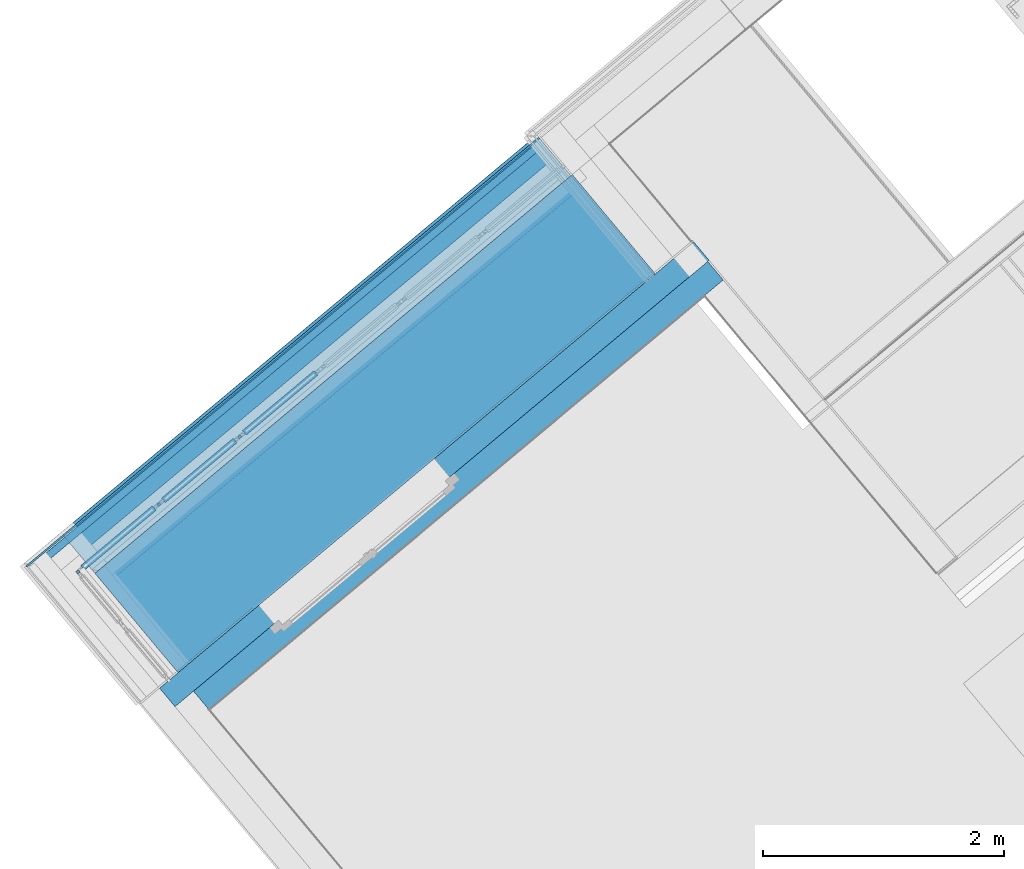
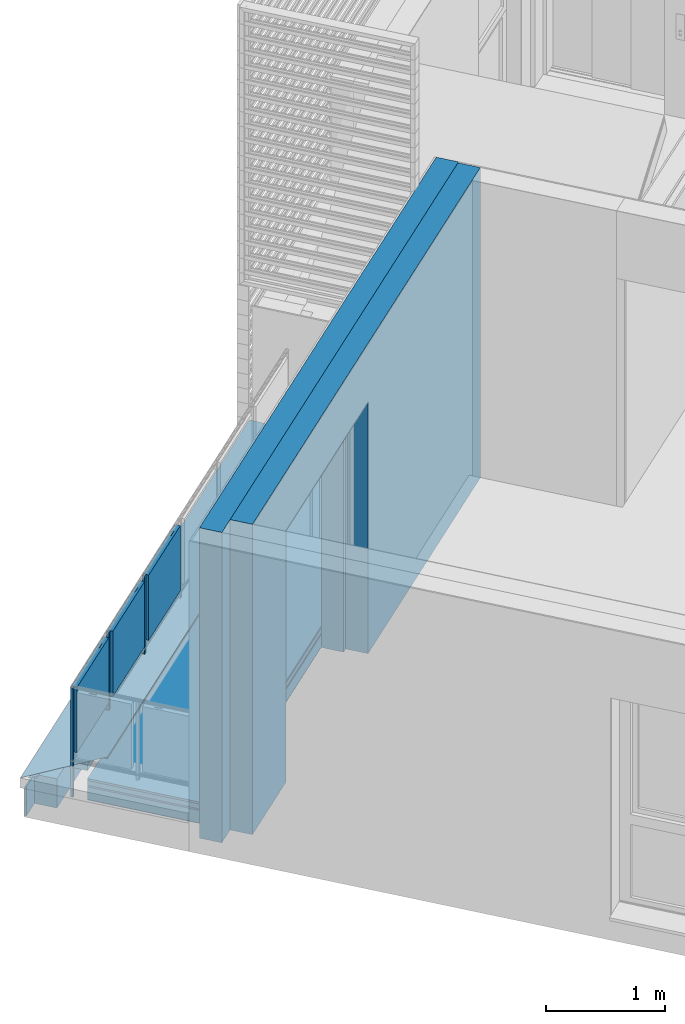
# One storey, part 18 of 47: 18 building element parts, 1 opening, 4 elements without a shape of their own.
"""IFC4 building model written with IfcOpenShell, lengths in metres."""

from ifc_helpers import new_model, entity, si_unit, converted_unit, derived_unit, direction, frame, origin_with_axes, place, context, subcontext, project, spatial, polygons, material, type_object, element, aggregate, save


model = new_model("IFC4")

# Units and contexts
model_context = context("Model", 3, precision=1e-05, world=origin_with_axes(), true_north=direction((0.0, 1.0)))
body_context = subcontext(model_context, "Body", "Model", "MODEL_VIEW")
ifc_project = project(units=[si_unit("LENGTHUNIT", "METRE"), si_unit("AREAUNIT", "SQUARE_METRE"), si_unit("VOLUMEUNIT", "CUBIC_METRE"), converted_unit("PLANEANGLEUNIT", "DEGREE", entity("IfcPlaneAngleMeasure", 0.0174532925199), si_unit("PLANEANGLEUNIT", "RADIAN"), dimensions=[0, 0, 0, 0, 0, 0, 0]), converted_unit("TIMEUNIT", "Year", entity("IfcTimeMeasure", 31556926.0), si_unit("TIMEUNIT", "SECOND"), dimensions=[0, 0, 1, 0, 0, 0, 0]), si_unit("MASSUNIT", "GRAM", prefix="KILO"), si_unit("THERMODYNAMICTEMPERATUREUNIT", "DEGREE_CELSIUS"), si_unit("LUMINOUSINTENSITYUNIT", "LUMEN"), si_unit("ENERGYUNIT", "JOULE", prefix="MEGA"), derived_unit("THERMALCONDUCTANCEUNIT", [(si_unit("POWERUNIT", "WATT"), 1), (si_unit("LENGTHUNIT", "METRE"), -1), (si_unit("THERMODYNAMICTEMPERATUREUNIT", "KELVIN"), -1)]), derived_unit("SPECIFICHEATCAPACITYUNIT", [(si_unit("ENERGYUNIT", "JOULE"), 1), (si_unit("MASSUNIT", "GRAM", prefix="KILO"), -1), (si_unit("THERMODYNAMICTEMPERATUREUNIT", "KELVIN"), -1)]), derived_unit("MASSDENSITYUNIT", [(si_unit("MASSUNIT", "GRAM", prefix="KILO"), 1), (si_unit("VOLUMEUNIT", "CUBIC_METRE"), -1)])], contexts=[model_context])

# Site, building, storey
site_placement = place(None, frame((-0.00153261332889, -0.00661245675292, 0.0), z_axis=(0.0, 0.0, 1.0), x_axis=(1.0, 0.0, 0.0)))
site = spatial("IfcSite", under=ifc_project, at=site_placement, Name="Site", CompositionType="ELEMENT")
building_placement = place(site_placement, origin_with_axes())
building = spatial("IfcBuilding", under=site, at=building_placement, Name="Building", CompositionType="ELEMENT")
storey_placement = place(building_placement, frame((0.0, 0.0, 8.66), z_axis=(0.0, 0.0, 1.0), x_axis=(1.0, 0.0, 0.0)))
storey = spatial("IfcBuildingStorey", under=building, at=storey_placement, Name="DG2", CompositionType="ELEMENT", Elevation=8.66)

# Wall, opening, building element parts
wall_type_1 = type_object("IfcWallType", Name="AW EG 420", PredefinedType="NOTDEFINED")
wall_1_placement = place(storey_placement, frame((-7.73758680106, 17.8868192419, 0.0), z_axis=(0.0, 0.0, 1.0), x_axis=(0.767365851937, 0.641209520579, 0.0)))
wall_1 = element("IfcWall", 1, at=wall_1_placement, inside=storey, type_object=wall_type_1, Name="Wand-002", PredefinedType="NOTDEFINED")
opening_placement = place(wall_1_placement, frame((2.23567660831, 0.0, 0.22), z_axis=(0.0, 0.0, 1.0), x_axis=(1.0, 0.0, 0.0)))
element("IfcOpeningElement", 2, at=opening_placement, cuts=wall_1, Name="Tür-002", context=body_context, identifier="Reference", shape_type="Tessellation", body=[
    polygons([(-0.95, -0.215, 2.31), (0.95, -0.215, 2.31), (0.95, 2.84018525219, 2.31), (-0.95, 2.84018525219, 2.31), (0.95, -0.215, -0.22), (-0.95, -0.215, -0.22), (-1.0, -0.215, -0.22), (-1.0, -0.215, 2.36), (1.0, -0.215, 2.36), (1.0, -0.215, -0.22), (0.95, 2.84018525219, -0.22), (-0.95, 2.84018525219, -0.22), (1.0, -3.26018525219, -0.22), (-1.0, -3.26018525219, -0.22), (-1.0, -3.26018525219, 2.36), (1.0, -3.26018525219, 2.36)], [[[1, 2, 3, 4]], [[5, 2, 1, 6, 7, 8, 9, 10]], [[2, 5, 11, 3]], [[3, 11, 12, 4]], [[6, 1, 4, 12]], [[6, 12, 11, 5, 10, 13, 14, 7]], [[8, 7, 14, 15]], [[9, 8, 15, 16]], [[10, 9, 16, 13]], [[15, 14, 13, 16]]], closed=True),
])
ifc_material_1 = material(Name="EPS 1")
building_element_part_1_placement = place(wall_1_placement, origin_with_axes())
building_element_part_1 = element("IfcBuildingElementPart", 3, at=building_element_part_1_placement, material=ifc_material_1, Name="EPS 1", PredefinedType="NOTDEFINED", context=body_context, shape_type="Tessellation", body=[
    polygons([(1.28567660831, -0.215, 0.0), (1.28567660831, -0.215, 2.53), (3.18567660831, -0.215, 2.53), (3.18567660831, -0.215, 0.0), (5.77520574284, -0.215, 0.0), (5.77520574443, -0.215, 1.66399832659), (5.97520574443, -0.215, 1.66399832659), (5.97520574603, -0.215, 0.0), (5.99020575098, -0.215, 0.0), (5.99020575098, -0.215, 3.18), (0.214999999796, -0.215, 3.18), (0.214999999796, -0.215, 0.0), (1.28567660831, -0.015, 0.0), (1.28567660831, -0.015, 2.53), (3.18567660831, -0.015, 2.53), (3.18567660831, -0.015, 0.0), (5.77520574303, -0.015, 0.0), (5.77520574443, -0.015, 1.66399832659), (5.97520574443, -0.015, 1.66399832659), (5.97520574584, -0.015, 0.0), (5.990205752, -0.015, 0.0), (5.990205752, -0.015, 3.18), (0.214999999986, -0.015, 3.18), (0.214999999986, -0.015, 0.0)], [[[1, 2, 3, 4, 5, 6, 7, 8, 9, 10, 11, 12]], [[2, 1, 13, 14]], [[3, 2, 14, 15]], [[4, 3, 15, 16]], [[4, 16, 17, 5]], [[6, 5, 17, 18]], [[7, 6, 18, 19]], [[8, 7, 19, 20]], [[8, 20, 21, 9]], [[22, 10, 9, 21]], [[10, 22, 23, 11]], [[12, 11, 23, 24]], [[13, 1, 12, 24]], [[14, 13, 24, 23, 22, 21, 20, 19, 18, 17, 16, 15]]], closed=True),
])
ifc_material_2 = material(Name="Stahlbeton Wand")
building_element_part_2_placement = place(wall_1_placement, origin_with_axes())
building_element_part_2 = element("IfcBuildingElementPart", 4, at=building_element_part_2_placement, material=ifc_material_2, Name="Stahlbeton Wand", PredefinedType="NOTDEFINED", context=body_context, shape_type="Tessellation", body=[
    polygons([(1.23567660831, -0.415, 0.0), (1.23567660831, -0.415, 2.58), (3.23567660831, -0.415, 2.58), (3.23567660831, -0.415, 0.0), (5.97520574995, -0.415, 0.0), (5.97520574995, -0.415, 3.18), (0.414999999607, -0.415, 3.18), (0.414999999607, -0.415, 0.0), (1.23567660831, -0.215, 0.0), (1.23567660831, -0.215, 2.58), (3.23567660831, -0.215, 2.58), (3.23567660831, -0.215, 0.0), (5.97520575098, -0.215, 0.0), (5.97520575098, -0.215, 3.18), (0.414999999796, -0.215, 3.18), (0.414999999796, -0.215, 0.0)], [[[1, 2, 3, 4, 5, 6, 7, 8]], [[2, 1, 9, 10]], [[3, 2, 10, 11]], [[4, 3, 11, 12]], [[4, 12, 13, 5]], [[6, 5, 13, 14]], [[14, 15, 7, 6]], [[7, 15, 16, 8]], [[9, 1, 8, 16]], [[10, 9, 16, 15, 14, 13, 12, 11]]], closed=True),
])
aggregate(wall_1, [building_element_part_1, building_element_part_2])

# Wall, building element parts
wall_type_2 = type_object("IfcWallType", Name="Bauteil - Attika Terrasse 1.DG 574 x 410", PredefinedType="NOTDEFINED")
wall_2_placement = place(storey_placement, frame((-8.38023068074, 18.991205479, -0.2), z_axis=(0.0, 0.0, 1.0), x_axis=(0.767365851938, 0.641209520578, 0.0)))
wall_2 = element("IfcWall", 5, at=wall_2_placement, inside=storey, type_object=wall_type_2, Name="Wand-005", PredefinedType="NOTDEFINED")
ifc_material_3 = material(Name="Zementputz")
building_element_part_3_placement = place(wall_2_placement, origin_with_axes())
building_element_part_3 = element("IfcBuildingElementPart", 6, at=building_element_part_3_placement, material=ifc_material_3, Name="Zementputz", PredefinedType="NOTDEFINED", context=body_context, shape_type="Tessellation", body=[
    polygons([(-0.199999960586, 0.214999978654, 0.499999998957), (-0.199999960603, 0.199999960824, 0.499999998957), (5.34520574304, 0.199999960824, 0.499999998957), (5.34520574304, 0.214999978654, 0.499999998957), (-0.199999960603, 0.199999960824, 0.498822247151), (-0.199999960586, 0.214999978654, 0.498822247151), (-0.199999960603, 0.199999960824, 0.49100648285), (-0.199999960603, 0.199999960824, 0.488695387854), (-0.199999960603, 0.199999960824, 0.335), (-0.199999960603, 0.199999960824, 0.2), (5.34520574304, 0.199999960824, 0.2), (5.34520574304, 0.214999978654, 0.2), (-0.199999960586, 0.214999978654, 0.2), (-0.199999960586, 0.214999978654, 0.335), (-0.199999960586, 0.214999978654, 0.488695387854), (-0.199999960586, 0.214999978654, 0.49100648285)], [[[1, 2, 3, 4]], [[5, 2, 1, 6]], [[2, 5, 7, 8, 9, 10, 11, 3]], [[12, 4, 3, 11]], [[6, 1, 4, 12, 13, 14, 15, 16]], [[5, 6, 16, 7]], [[7, 16, 15, 8]], [[8, 15, 14, 9]], [[9, 14, 13, 10]], [[10, 13, 12, 11]]], closed=True),
])
ifc_material_4 = material(Name="Vollholz")
building_element_part_4_placement = place(wall_2_placement, origin_with_axes())
building_element_part_4 = element("IfcBuildingElementPart", 7, at=building_element_part_4_placement, material=ifc_material_4, Name="Vollholz", PredefinedType="NOTDEFINED", context=body_context, shape_type="Tessellation", body=[
    polygons([(-0.189984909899, 0.189984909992, 0.586106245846), (-0.130124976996, 0.130124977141, 0.584015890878), (5.34520574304, 0.130124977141, 0.584015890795), (5.34520574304, 0.189984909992, 0.586106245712), (-0.13012497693, 0.189996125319, 0.584015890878), (-0.130124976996, 0.130124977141, 0.560000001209), (5.34520574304, 0.130124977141, 0.560000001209), (-0.130124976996, 0.130124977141, 0.575979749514), (-0.130124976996, 0.130124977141, 0.573880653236), (-0.130124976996, 0.130124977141, 0.567947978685), (5.34520574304, 0.190124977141, 0.560000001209), (-0.13012497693, 0.190124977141, 0.560000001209), (-0.13012497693, 0.190082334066, 0.567947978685), (-0.13012497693, 0.190050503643, 0.573880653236), (-0.13012497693, 0.190039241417, 0.575979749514)], [[[1, 2, 3, 4]], [[5, 2, 1]], [[6, 7, 3, 2, 8, 9, 10]], [[3, 7, 11, 4]], [[5, 1, 4, 11, 12, 13, 14, 15]], [[2, 5, 15, 8]], [[6, 12, 11, 7]], [[15, 14, 9, 8]], [[13, 10, 9, 14]], [[6, 10, 13, 12]]], closed=True),
])
building_element_part_5_placement = place(wall_2_placement, origin_with_axes())
building_element_part_5 = element("IfcBuildingElementPart", 8, at=building_element_part_5_placement, material=ifc_material_1, Name="EPS 1", PredefinedType="NOTDEFINED", context=body_context, shape_type="Tessellation", body=[
    polygons([(0.0, 0.19999996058, 0.499999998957), (-2.39910313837e-10, 2.39911202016e-10, 0.499999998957), (5.34520574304, 2.39911202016e-10, 0.499999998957), (5.34520574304, 0.19999996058, 0.499999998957), (-2.39910313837e-10, 2.39911202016e-10, 0.498822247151), (0.0, 0.19999996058, 0.498822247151), (-2.39910313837e-10, 2.39911202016e-10, 0.49100648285), (-2.39910313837e-10, 2.39911202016e-10, 0.488695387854), (-2.39910313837e-10, 2.39911202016e-10, 0.335), (-2.39910313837e-10, 2.39911202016e-10, 0.2), (5.34520574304, 2.39911202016e-10, 0.2), (5.34520574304, 0.19999996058, 0.2), (0.0, 0.19999996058, 0.2), (0.0, 0.19999996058, 0.335), (0.0, 0.19999996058, 0.488695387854), (0.0, 0.19999996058, 0.49100648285)], [[[1, 2, 3, 4]], [[5, 2, 1, 6]], [[2, 5, 7, 8, 9, 10, 11, 3]], [[11, 12, 4, 3]], [[6, 1, 4, 12, 13, 14, 15, 16]], [[5, 6, 16, 7]], [[7, 16, 15, 8]], [[8, 15, 14, 9]], [[9, 14, 13, 10]], [[10, 13, 12, 11]]], closed=True),
])
ifc_material_5 = material(Name="Brettschichtholz")
building_element_part_6_placement = place(wall_2_placement, origin_with_axes())
building_element_part_6 = element("IfcBuildingElementPart", 9, at=building_element_part_6_placement, material=ifc_material_5, Name="Brettschichtholz", PredefinedType="NOTDEFINED", context=body_context, shape_type="Tessellation", body=[
    polygons([(0.200000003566, -0.159999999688, 0.559999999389), (0.200000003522, -0.200000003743, 0.559999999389), (5.34520574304, -0.200000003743, 0.559999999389), (5.34520574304, -0.159999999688, 0.559999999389), (0.200000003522, -0.200000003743, 0.519224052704), (0.200000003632, -0.100000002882, 0.559999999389), (0.200000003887, 0.130124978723, 0.559999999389), (0.200000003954, 0.190124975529, 0.559999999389), (0.200000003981, 0.214999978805, 0.559999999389), (0.200000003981, 0.214999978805, 0.519224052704), (0.200000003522, -0.200000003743, 0.511361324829), (0.200000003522, -0.200000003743, 0.50905023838), (0.200000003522, -0.200000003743, 0.500000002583), (5.34520574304, -0.200000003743, 0.500000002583), (5.34520574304, 0.214999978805, 0.499999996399), (5.34520574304, 0.214999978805, 0.559999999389), (5.34520574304, 0.190124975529, 0.559999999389), (5.34520574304, 0.130124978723, 0.559999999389), (5.34520574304, -0.100000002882, 0.559999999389), (0.200000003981, 0.214999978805, 0.500000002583), (0.200000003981, 0.214999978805, 0.50905023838), (0.200000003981, 0.214999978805, 0.511361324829)], [[[1, 2, 3, 4]], [[5, 2, 1, 6, 7, 8, 9, 10]], [[2, 5, 11, 12, 13, 14, 3]], [[14, 15, 16, 17, 18, 19, 4, 3]], [[6, 1, 4, 19]], [[7, 6, 19, 18]], [[8, 7, 18, 17]], [[9, 8, 17, 16]], [[10, 9, 16, 15, 20, 21, 22]], [[5, 10, 22, 11]], [[11, 22, 21, 12]], [[12, 21, 20, 13]], [[13, 20, 15, 14]]], closed=True),
])
ifc_material_6 = material(Name="Holzwerkstoff")
building_element_part_7_placement = place(wall_2_placement, origin_with_axes())
building_element_part_7 = element("IfcBuildingElementPart", 10, at=building_element_part_7_placement, material=ifc_material_6, Name="Holzwerkstoff", PredefinedType="NOTDEFINED", context=body_context, shape_type="Tessellation", body=[
    polygons([(-0.239276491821, 0.239276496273, 0.608570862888), (0.330698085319, -0.330698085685, 0.587938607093), (5.34520574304, -0.330698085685, 0.587938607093), (5.34520574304, 0.239276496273, 0.608570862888), (0.330698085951, 0.2399969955, 0.587938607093), (0.330561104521, -0.330561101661, 0.584015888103), (0.330280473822, -0.330280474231, 0.57597974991), (0.330207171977, -0.330207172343, 0.573880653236), (0.329999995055, -0.329999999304, 0.567947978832), (5.34520574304, -0.329999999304, 0.567947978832), (0.330634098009, -0.330634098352, 0.586106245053), (5.34520574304, -0.100000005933, 0.575979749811), (5.34520574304, 0.130124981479, 0.584015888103), (5.34520574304, 0.189984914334, 0.586106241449), (5.34520574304, 0.239999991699, 0.587852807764), (5.34520574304, -0.160110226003, 0.573880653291), (0.330695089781, 0.239999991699, 0.587852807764), (0.33063409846, 0.189984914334, 0.586106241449), (0.330280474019, -0.100000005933, 0.575979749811), (0.330561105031, 0.130124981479, 0.584015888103), (0.330207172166, -0.160110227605, 0.573880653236)], [[[1, 2, 3, 4]], [[1, 5, 2]], [[6, 7, 8, 9, 10, 3, 2, 11]], [[12, 13, 14, 15, 4, 3, 10, 16]], [[17, 5, 1, 4, 15]], [[18, 11, 2, 5, 17]], [[19, 7, 6, 20]], [[21, 8, 7, 19]], [[21, 9, 8]], [[9, 21, 16, 10]], [[20, 6, 11, 18]], [[19, 20, 13, 12]], [[20, 18, 14, 13]], [[18, 17, 15, 14]], [[21, 19, 12, 16]]], closed=True),
])
aggregate(wall_2, [building_element_part_3, building_element_part_4, building_element_part_5, building_element_part_6, building_element_part_7])

# Covering, building element parts
covering_type = type_object("IfcCoveringType", Name="Balkon vor Terrasse 220", PredefinedType="NOTDEFINED")
covering_placement = place(storey_placement, frame((-7.40951182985, 18.1414107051, 0.0), z_axis=(0.0, 0.0, 1.0), x_axis=(1.0, 0.0, 0.0)))
covering = element("IfcCovering", 11, at=covering_placement, inside=storey, type_object=covering_type, Name="Decke-005", PredefinedType="NOTDEFINED")
ifc_material_7 = material(Name="Platten")
building_element_part_8_placement = place(covering_placement, origin_with_axes())
building_element_part_8 = element("IfcBuildingElementPart", 12, at=building_element_part_8_placement, material=ifc_material_7, Name="Platten", PredefinedType="NOTDEFINED", context=body_context, shape_type="Tessellation", body=[
    polygons([(3.93863704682, 3.31066539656, 0.2), (3.93863704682, 3.31066539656, 0.22), (2.15487276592, 1.82015518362, 0.22), (2.15487276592, 1.82015518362, 0.2), (3.25925131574, 4.12371853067, 0.22), (3.25925131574, 4.12371853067, 0.2), (-0.689003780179, 0.82456351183, 0.22), (-0.0096181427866, 0.0115104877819, 0.22), (0.620141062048, 0.537736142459, 0.22), (0.629759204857, 0.52622565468, 0.22), (2.16449090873, 1.80864469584, 0.22), (2.16449090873, 1.80864469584, 0.2), (0.629759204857, 0.52622565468, 0.2), (0.620141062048, 0.537736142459, 0.2), (-0.0096181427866, 0.0115104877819, 0.2), (-0.689003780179, 0.82456351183, 0.2)], [[[1, 2, 3, 4]], [[5, 2, 1, 6]], [[2, 5, 7, 8, 9, 10, 11, 3]], [[3, 11, 12, 4]], [[6, 1, 4, 12, 13, 14, 15, 16]], [[5, 6, 16, 7]], [[15, 8, 7, 16]], [[9, 8, 15, 14]], [[13, 10, 9, 14]], [[12, 11, 10, 13]]], closed=True),
])
ifc_material_8 = material(Name="Luftschicht horizontal")
building_element_part_9_placement = place(covering_placement, origin_with_axes())
building_element_part_9 = element("IfcBuildingElementPart", 13, at=building_element_part_9_placement, material=ifc_material_8, Name="Luftschicht horizontal", PredefinedType="NOTDEFINED", context=body_context, shape_type="Tessellation", body=[
    polygons([(3.93863704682, 3.31066539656, 0.15), (3.93863704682, 3.31066539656, 0.2), (2.15487276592, 1.82015518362, 0.2), (2.15487276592, 1.82015518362, 0.15), (3.25925131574, 4.12371853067, 0.2), (3.25925131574, 4.12371853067, 0.15), (-0.689003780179, 0.82456351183, 0.2), (-0.0096181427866, 0.0115104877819, 0.2), (0.620141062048, 0.537736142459, 0.2), (0.629759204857, 0.52622565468, 0.2), (2.16449090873, 1.80864469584, 0.2), (2.16449090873, 1.80864469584, 0.15), (0.629759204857, 0.52622565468, 0.15), (0.620141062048, 0.537736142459, 0.15), (-0.0096181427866, 0.0115104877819, 0.15), (-0.689003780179, 0.82456351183, 0.15)], [[[1, 2, 3, 4]], [[5, 2, 1, 6]], [[2, 5, 7, 8, 9, 10, 11, 3]], [[3, 11, 12, 4]], [[6, 1, 4, 12, 13, 14, 15, 16]], [[5, 6, 16, 7]], [[15, 8, 7, 16]], [[9, 8, 15, 14]], [[13, 10, 9, 14]], [[12, 11, 10, 13]]], closed=True),
])
ifc_material_9 = material(Name="Sperrschicht")
building_element_part_10_placement = place(covering_placement, origin_with_axes())
building_element_part_10 = element("IfcBuildingElementPart", 14, at=building_element_part_10_placement, material=ifc_material_9, Name="Sperrschicht", PredefinedType="NOTDEFINED", context=body_context, shape_type="Tessellation", body=[
    polygons([(3.95976566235, 3.30877303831, 0.135), (3.95976566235, 3.30877303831, 0.15), (0.0, 0.0, 0.15), (0.0, 0.0, 0.135), (3.27076180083, 4.13333667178, 0.135), (3.27076180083, 4.13333667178, 0.15), (-0.689003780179, 0.82456351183, 0.15), (-0.689003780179, 0.82456351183, 0.135)], [[[1, 2, 3, 4]], [[5, 6, 2, 1]], [[3, 2, 6, 7]], [[4, 3, 7, 8]], [[4, 8, 5, 1]], [[8, 7, 6, 5]]], closed=True),
])
ifc_material_10 = material(Name="XPS")
building_element_part_11_placement = place(covering_placement, origin_with_axes())
building_element_part_11 = element("IfcBuildingElementPart", 15, at=building_element_part_11_placement, material=ifc_material_10, Name="XPS", PredefinedType="NOTDEFINED", context=body_context, shape_type="Tessellation", body=[
    polygons([(3.95976566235, 3.30877303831, 0.005), (3.95976566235, 3.30877303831, 0.135), (0.0, 0.0, 0.135), (0.0, 0.0, 0.005), (3.27076180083, 4.13333667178, 0.005), (3.27076180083, 4.13333667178, 0.135), (-0.689003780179, 0.82456351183, 0.135), (-0.689003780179, 0.82456351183, 0.005)], [[[1, 2, 3, 4]], [[5, 6, 2, 1]], [[3, 2, 6, 7]], [[4, 3, 7, 8]], [[4, 8, 5, 1]], [[8, 7, 6, 5]]], closed=True),
])
building_element_part_12_placement = place(covering_placement, origin_with_axes())
building_element_part_12 = element("IfcBuildingElementPart", 16, at=building_element_part_12_placement, material=ifc_material_9, Name="Sperrschicht", PredefinedType="NOTDEFINED", context=body_context, shape_type="Tessellation", body=[
    polygons([(0.0, 0.0, 0.0), (3.95976566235, 3.30877303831, 0.0), (3.95976566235, 3.30877303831, 0.005), (0.0, 0.0, 0.005), (-0.689003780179, 0.82456351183, 0.0), (3.27076180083, 4.13333667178, 0.0), (3.27076180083, 4.13333667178, 0.005), (-0.689003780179, 0.82456351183, 0.005)], [[[1, 2, 3, 4]], [[1, 5, 6, 2]], [[2, 6, 7, 3]], [[4, 3, 7, 8]], [[5, 1, 4, 8]], [[6, 5, 8, 7]]], closed=True),
])
aggregate(covering, [building_element_part_8, building_element_part_9, building_element_part_10, building_element_part_11, building_element_part_12])

# Railing, building element parts
railing_type = type_object("IfcRailingType", Name="Geländerart", PredefinedType="NOTDEFINED")
railing_placement = place(storey_placement, frame((-7.40951182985, 18.1414107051, 0.38), z_axis=(0.0, 0.0, 1.0), x_axis=(1.0, 0.0, 0.0)))
railing = element("IfcRailing", 17, at=railing_placement, inside=storey, type_object=railing_type, Name="Geländer - 001", PredefinedType="NOTDEFINED")
ifc_material_11 = material(Name="Aluminium")
building_element_part_13_placement = place(railing_placement, origin_with_axes())
building_element_part_13 = element("IfcBuildingElementPart", 18, at=building_element_part_13_placement, material=ifc_material_11, Name="Aluminium", PredefinedType="NOTDEFINED", context=body_context, shape_type="Tessellation", body=[
    polygons([(-0.828284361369, 0.854786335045, -0.3), (-0.847468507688, 0.838756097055, -0.3), (-0.847468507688, 0.838756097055, 0.82), (-0.828284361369, 0.854786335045, 0.82), (-0.812254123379, 0.835602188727, -0.3), (-0.831438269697, 0.819571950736, -0.3), (-0.831438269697, 0.819571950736, 0.82), (-0.812254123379, 0.835602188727, 0.82)], [[[1, 2, 3, 4]], [[1, 5, 6, 2]], [[2, 6, 7, 3]], [[4, 3, 7, 8]], [[5, 1, 4, 8]], [[6, 5, 8, 7]]], closed=True),
])
building_element_part_14_placement = place(railing_placement, origin_with_axes())
building_element_part_14 = element("IfcBuildingElementPart", 19, at=building_element_part_14_placement, material=ifc_material_11, Name="Aluminium", PredefinedType="NOTDEFINED", context=body_context, shape_type="Tessellation", body=[
    polygons([(-0.7163594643, 0.935278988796, 0.12), (-0.662643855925, 0.980163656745, 0.12), (-0.662643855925, 0.980163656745, 0.095), (-0.7163594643, 0.935278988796, 0.095), (-0.713153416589, 0.931442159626, 0.12), (-0.659437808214, 0.976326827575, 0.12), (-0.659437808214, 0.976326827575, 0.095), (-0.713153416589, 0.931442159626, 0.095)], [[[1, 2, 3, 4]], [[5, 6, 2, 1]], [[2, 6, 7, 3]], [[4, 3, 7, 8]], [[1, 4, 8, 5]], [[8, 7, 6, 5]]], closed=True),
    polygons([(-0.275737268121, 1.3034621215, 0.79), (-0.329452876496, 1.25857745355, 0.79), (-0.329452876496, 1.25857745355, 0.795), (-0.275737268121, 1.3034621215, 0.795), (-0.272531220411, 1.29962529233, 0.79), (-0.326246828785, 1.25474062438, 0.79), (-0.326246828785, 1.25474062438, 0.795), (-0.272531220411, 1.29962529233, 0.795)], [[[1, 2, 3, 4]], [[5, 6, 2, 1]], [[2, 6, 7, 3]], [[4, 3, 7, 8]], [[1, 4, 8, 5]], [[8, 7, 6, 5]]], closed=True),
    polygons([(-0.775462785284, 0.850055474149, 0.12), (-0.80752326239, 0.888423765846, 0.12), (-0.213427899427, 1.38484880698, 0.12), (-0.18136742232, 1.34648051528, 0.12), (-0.760115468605, 0.862879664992, 0.14), (-0.769733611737, 0.874390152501, 0.14), (-0.773570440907, 0.87118410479, 0.135), (-0.786394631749, 0.886531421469, 0.135), (-0.78255780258, 0.889737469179, 0.14), (-0.792175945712, 0.901247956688, 0.14), (-0.228775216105, 1.37202461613, 0.14), (-0.228775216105, 1.37202461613, 0.77), (-0.792175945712, 0.901247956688, 0.77), (-0.792175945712, 0.901247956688, 0.14), (-0.80752326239, 0.888423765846, 0.12), (-0.80752326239, 0.888423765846, 0.79), (-0.213427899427, 1.38484880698, 0.79), (-0.18136742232, 1.34648051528, 0.79), (-0.775462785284, 0.850055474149, 0.79), (-0.775462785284, 0.850055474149, 0.12), (-0.760115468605, 0.862879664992, 0.14), (-0.760115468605, 0.862879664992, 0.77), (-0.196714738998, 1.33365632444, 0.77), (-0.196714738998, 1.33365632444, 0.14), (-0.20633288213, 1.34516681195, 0.14), (-0.20633288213, 1.34516681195, 0.77), (-0.769733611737, 0.874390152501, 0.77), (-0.769733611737, 0.874390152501, 0.14), (-0.773570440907, 0.87118410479, 0.135), (-0.773570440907, 0.87118410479, 0.775), (-0.202496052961, 1.34837285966, 0.775), (-0.202496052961, 1.34837285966, 0.135), (-0.215320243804, 1.36372017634, 0.135), (-0.215320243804, 1.36372017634, 0.775), (-0.786394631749, 0.886531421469, 0.775), (-0.786394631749, 0.886531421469, 0.135), (-0.78255780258, 0.889737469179, 0.14), (-0.78255780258, 0.889737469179, 0.77), (-0.219157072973, 1.36051412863, 0.77), (-0.219157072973, 1.36051412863, 0.14)], [[[1, 2, 3, 4]], [[1, 5, 6, 7, 8, 9, 10, 2]], [[2, 10, 11, 12, 13, 14, 15, 16, 17, 3]], [[4, 3, 17, 18]], [[5, 1, 4, 18, 19, 20, 21, 22, 23, 24]], [[6, 5, 24, 25]], [[7, 6, 25, 26, 27, 28, 29, 30, 31, 32]], [[8, 7, 32, 33]], [[9, 8, 33, 34, 35, 36, 37, 38, 39, 40]], [[10, 9, 40, 11]], [[11, 40, 39, 12]], [[12, 39, 38, 13]], [[13, 38, 37, 14]], [[20, 15, 14, 37, 36, 29, 28, 21]], [[19, 16, 15, 20]], [[18, 17, 16, 19]], [[27, 22, 21, 28]], [[26, 23, 22, 27]], [[25, 24, 23, 26]], [[35, 30, 29, 36]], [[34, 31, 30, 35]], [[33, 32, 31, 34]]], closed=True),
])
building_element_part_15_placement = place(railing_placement, origin_with_axes())
building_element_part_15 = element("IfcBuildingElementPart", 20, at=building_element_part_15_placement, material=ifc_material_11, Name="Aluminium", PredefinedType="NOTDEFINED", context=body_context, shape_type="Tessellation", body=[
    polygons([(-0.141422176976, 1.39614818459, -0.3), (-0.15745241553, 1.41533233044, -0.3), (-0.15745241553, 1.41533233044, 0.82), (-0.141422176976, 1.39614818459, 0.82), (-0.160606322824, 1.38011794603, -0.3), (-0.176636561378, 1.39930209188, -0.3), (-0.176636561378, 1.39930209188, 0.82), (-0.160606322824, 1.38011794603, 0.82)], [[[1, 2, 3, 4]], [[1, 5, 6, 2]], [[2, 6, 7, 3]], [[4, 3, 7, 8]], [[5, 1, 4, 8]], [[6, 5, 8, 7]]], closed=True),
])
building_element_part_16_placement = place(railing_placement, origin_with_axes())
building_element_part_16 = element("IfcBuildingElementPart", 21, at=building_element_part_16_placement, material=ifc_material_11, Name="Aluminium", PredefinedType="NOTDEFINED", context=body_context, shape_type="Tessellation", body=[
    polygons([(-0.0455275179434, 1.49582498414, 0.12), (0.00818809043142, 1.54070965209, 0.12), (0.00818809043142, 1.54070965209, 0.095), (-0.0455275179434, 1.49582498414, 0.095), (-0.0423214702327, 1.49198815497, 0.12), (0.0113941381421, 1.53687282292, 0.12), (0.0113941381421, 1.53687282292, 0.095), (-0.0423214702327, 1.49198815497, 0.095)], [[[1, 2, 3, 4]], [[5, 6, 2, 1]], [[2, 6, 7, 3]], [[4, 3, 7, 8]], [[1, 4, 8, 5]], [[8, 7, 6, 5]]], closed=True),
    polygons([(0.395094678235, 1.86400811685, 0.79), (0.34137906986, 1.8191234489, 0.79), (0.34137906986, 1.8191234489, 0.795), (0.395094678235, 1.86400811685, 0.795), (0.398300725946, 1.86017128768, 0.79), (0.344585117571, 1.81528661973, 0.79), (0.344585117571, 1.81528661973, 0.795), (0.398300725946, 1.86017128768, 0.795)], [[[1, 2, 3, 4]], [[5, 6, 2, 1]], [[2, 6, 7, 3]], [[4, 3, 7, 8]], [[1, 4, 8, 5]], [[8, 7, 6, 5]]], closed=True),
    polygons([(-0.104630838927, 1.41060146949, 0.12), (-0.136691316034, 1.44896976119, 0.12), (0.45740404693, 1.94539480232, 0.12), (0.489464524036, 1.90702651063, 0.12), (-0.0892835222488, 1.42342566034, 0.14), (-0.0989016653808, 1.43493614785, 0.14), (-0.10273849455, 1.43173010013, 0.135), (-0.115562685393, 1.44707741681, 0.135), (-0.111725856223, 1.45028346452, 0.14), (-0.121343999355, 1.46179395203, 0.14), (0.442056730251, 1.93257061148, 0.14), (0.442056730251, 1.93257061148, 0.77), (-0.121343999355, 1.46179395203, 0.77), (-0.121343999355, 1.46179395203, 0.14), (-0.136691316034, 1.44896976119, 0.12), (-0.136691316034, 1.44896976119, 0.79), (0.45740404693, 1.94539480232, 0.79), (0.489464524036, 1.90702651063, 0.79), (-0.104630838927, 1.41060146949, 0.79), (-0.104630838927, 1.41060146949, 0.12), (-0.0892835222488, 1.42342566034, 0.14), (-0.0892835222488, 1.42342566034, 0.77), (0.474117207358, 1.89420231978, 0.77), (0.474117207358, 1.89420231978, 0.14), (0.464499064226, 1.90571280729, 0.14), (0.464499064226, 1.90571280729, 0.77), (-0.0989016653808, 1.43493614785, 0.77), (-0.0989016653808, 1.43493614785, 0.14), (-0.10273849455, 1.43173010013, 0.135), (-0.10273849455, 1.43173010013, 0.775), (0.468335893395, 1.908918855, 0.775), (0.468335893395, 1.908918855, 0.135), (0.455511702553, 1.92426617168, 0.135), (0.455511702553, 1.92426617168, 0.775), (-0.115562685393, 1.44707741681, 0.775), (-0.115562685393, 1.44707741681, 0.135), (-0.111725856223, 1.45028346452, 0.14), (-0.111725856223, 1.45028346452, 0.77), (0.451674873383, 1.92106012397, 0.77), (0.451674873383, 1.92106012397, 0.14)], [[[1, 2, 3, 4]], [[1, 5, 6, 7, 8, 9, 10, 2]], [[2, 10, 11, 12, 13, 14, 15, 16, 17, 3]], [[4, 3, 17, 18]], [[5, 1, 4, 18, 19, 20, 21, 22, 23, 24]], [[6, 5, 24, 25]], [[7, 6, 25, 26, 27, 28, 29, 30, 31, 32]], [[8, 7, 32, 33]], [[9, 8, 33, 34, 35, 36, 37, 38, 39, 40]], [[10, 9, 40, 11]], [[11, 40, 39, 12]], [[12, 39, 38, 13]], [[13, 38, 37, 14]], [[20, 15, 14, 37, 36, 29, 28, 21]], [[19, 16, 15, 20]], [[18, 17, 16, 19]], [[27, 22, 21, 28]], [[26, 23, 22, 27]], [[25, 24, 23, 26]], [[35, 30, 29, 36]], [[34, 31, 30, 35]], [[33, 32, 31, 34]]], closed=True),
])
building_element_part_17_placement = place(railing_placement, origin_with_axes())
building_element_part_17 = element("IfcBuildingElementPart", 22, at=building_element_part_17_placement, material=ifc_material_11, Name="Aluminium", PredefinedType="NOTDEFINED", context=body_context, shape_type="Tessellation", body=[
    polygons([(0.52940976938, 1.95669417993, -0.3), (0.513379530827, 1.97587832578, -0.3), (0.513379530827, 1.97587832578, 0.82), (0.52940976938, 1.95669417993, 0.82), (0.510225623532, 1.94066394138, -0.3), (0.494195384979, 1.95984808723, -0.3), (0.494195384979, 1.95984808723, 0.82), (0.510225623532, 1.94066394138, 0.82)], [[[1, 2, 3, 4]], [[1, 5, 6, 2]], [[2, 6, 7, 3]], [[4, 3, 7, 8]], [[5, 1, 4, 8]], [[6, 5, 8, 7]]], closed=True),
])
building_element_part_18_placement = place(railing_placement, origin_with_axes())
building_element_part_18 = element("IfcBuildingElementPart", 23, at=building_element_part_18_placement, material=ifc_material_11, Name="Aluminium", PredefinedType="NOTDEFINED", context=body_context, shape_type="Tessellation", body=[
    polygons([(0.625304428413, 2.05637097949, 0.12), (0.679020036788, 2.10125564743, 0.12), (0.679020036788, 2.10125564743, 0.095), (0.625304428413, 2.05637097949, 0.095), (0.628510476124, 2.05253415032, 0.12), (0.682226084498, 2.09741881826, 0.12), (0.682226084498, 2.09741881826, 0.095), (0.628510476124, 2.05253415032, 0.095)], [[[1, 2, 3, 4]], [[5, 6, 2, 1]], [[2, 6, 7, 3]], [[4, 3, 7, 8]], [[1, 4, 8, 5]], [[8, 7, 6, 5]]], closed=True),
    polygons([(1.06592662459, 2.42455411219, 0.79), (1.01221101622, 2.37966944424, 0.79), (1.01221101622, 2.37966944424, 0.795), (1.06592662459, 2.42455411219, 0.795), (1.0691326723, 2.42071728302, 0.79), (1.01541706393, 2.37583261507, 0.79), (1.01541706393, 2.37583261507, 0.795), (1.0691326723, 2.42071728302, 0.795)], [[[1, 2, 3, 4]], [[5, 6, 2, 1]], [[2, 6, 7, 3]], [[4, 3, 7, 8]], [[1, 4, 8, 5]], [[8, 7, 6, 5]]], closed=True),
    polygons([(0.566201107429, 1.97114746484, 0.12), (0.534140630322, 2.00951575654, 0.12), (1.12823599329, 2.50594079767, 0.12), (1.16029647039, 2.46757250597, 0.12), (0.581548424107, 1.98397165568, 0.14), (0.571930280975, 1.99548214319, 0.14), (0.568093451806, 1.99227609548, 0.135), (0.555269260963, 2.00762341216, 0.135), (0.559106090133, 2.01082945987, 0.14), (0.549487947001, 2.02233994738, 0.14), (1.11288867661, 2.49311660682, 0.14), (1.11288867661, 2.49311660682, 0.77), (0.549487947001, 2.02233994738, 0.77), (0.549487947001, 2.02233994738, 0.14), (0.534140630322, 2.00951575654, 0.12), (0.534140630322, 2.00951575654, 0.79), (1.12823599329, 2.50594079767, 0.79), (1.16029647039, 2.46757250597, 0.79), (0.566201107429, 1.97114746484, 0.79), (0.566201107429, 1.97114746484, 0.12), (0.581548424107, 1.98397165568, 0.14), (0.581548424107, 1.98397165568, 0.77), (1.14494915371, 2.45474831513, 0.77), (1.14494915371, 2.45474831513, 0.14), (1.13533101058, 2.46625880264, 0.14), (1.13533101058, 2.46625880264, 0.77), (0.571930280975, 1.99548214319, 0.77), (0.571930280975, 1.99548214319, 0.14), (0.568093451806, 1.99227609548, 0.135), (0.568093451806, 1.99227609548, 0.775), (1.13916783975, 2.46946485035, 0.775), (1.13916783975, 2.46946485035, 0.135), (1.12634364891, 2.48481216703, 0.135), (1.12634364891, 2.48481216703, 0.775), (0.555269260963, 2.00762341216, 0.775), (0.555269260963, 2.00762341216, 0.135), (0.559106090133, 2.01082945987, 0.14), (0.559106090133, 2.01082945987, 0.77), (1.12250681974, 2.48160611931, 0.77), (1.12250681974, 2.48160611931, 0.14)], [[[1, 2, 3, 4]], [[1, 5, 6, 7, 8, 9, 10, 2]], [[2, 10, 11, 12, 13, 14, 15, 16, 17, 3]], [[4, 3, 17, 18]], [[5, 1, 4, 18, 19, 20, 21, 22, 23, 24]], [[6, 5, 24, 25]], [[7, 6, 25, 26, 27, 28, 29, 30, 31, 32]], [[8, 7, 32, 33]], [[9, 8, 33, 34, 35, 36, 37, 38, 39, 40]], [[10, 9, 40, 11]], [[11, 40, 39, 12]], [[12, 39, 38, 13]], [[13, 38, 37, 14]], [[20, 15, 14, 37, 36, 29, 28, 21]], [[19, 16, 15, 20]], [[18, 17, 16, 19]], [[27, 22, 21, 28]], [[26, 23, 22, 27]], [[25, 24, 23, 26]], [[35, 30, 29, 36]], [[34, 31, 30, 35]], [[33, 32, 31, 34]]], closed=True),
])
aggregate(railing, [building_element_part_13, building_element_part_14, building_element_part_15, building_element_part_16, building_element_part_17, building_element_part_18])

save(model, "model.ifc")
